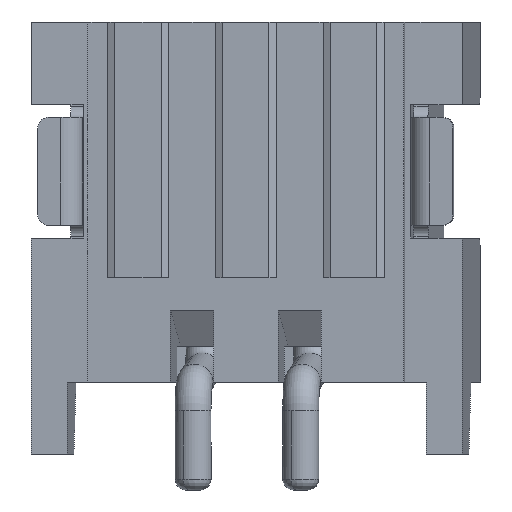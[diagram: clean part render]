
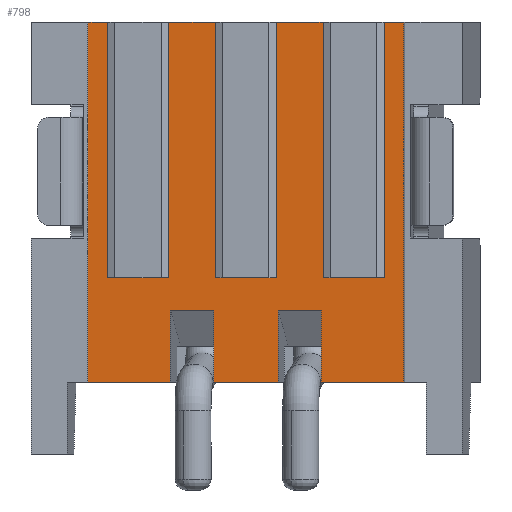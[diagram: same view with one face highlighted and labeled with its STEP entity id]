
A CAD part, front view. The second image highlights one B-rep face of the part: STEP entity #798.
In plain terms, the highlighted planar face has unit normal (-0.072, -0.997, 0) as drawn and (0, -1, 0) by its records, which use the part's own axes.
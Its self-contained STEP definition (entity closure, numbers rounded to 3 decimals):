
#577=CARTESIAN_POINT('Vertex',(1.075,0.,-3.55)) ;
#593=CARTESIAN_POINT('Vertex',(1.075,0.,0.)) ;
#596=CARTESIAN_POINT('Line Origine',(1.075,0.,-1.775)) ;
#608=CARTESIAN_POINT('Axis2P3D Location',(0.,0.,0.)) ;
#613=CARTESIAN_POINT('Line Origine',(-0.75,0.,0.)) ;
#617=CARTESIAN_POINT('Vertex',(-1.075,0.,0.)) ;
#619=CARTESIAN_POINT('Vertex',(-0.425,0.,0.)) ;
#622=CARTESIAN_POINT('Line Origine',(-1.075,0.,-1.775)) ;
#626=CARTESIAN_POINT('Vertex',(-1.075,0.,-3.55)) ;
#629=CARTESIAN_POINT('Line Origine',(-1.5,0.,-3.55)) ;
#633=CARTESIAN_POINT('Vertex',(-1.925,0.,-3.55)) ;
#636=CARTESIAN_POINT('Line Origine',(-1.925,0.,-1.775)) ;
#640=CARTESIAN_POINT('Vertex',(-1.925,0.,0.)) ;
#643=CARTESIAN_POINT('Line Origine',(-2.063,0.,0.)) ;
#647=CARTESIAN_POINT('Vertex',(-2.2,0.,0.)) ;
#650=CARTESIAN_POINT('Line Origine',(-2.2,0.,-2.5)) ;
#654=CARTESIAN_POINT('Vertex',(-2.2,0.,-5.)) ;
#657=CARTESIAN_POINT('Line Origine',(-1.625,0.,-5.)) ;
#661=CARTESIAN_POINT('Vertex',(-1.05,0.,-5.)) ;
#664=CARTESIAN_POINT('Line Origine',(-1.05,0.,-4.5)) ;
#668=CARTESIAN_POINT('Vertex',(-1.05,0.,-4.)) ;
#671=CARTESIAN_POINT('Line Origine',(-0.75,0.,-4.)) ;
#675=CARTESIAN_POINT('Vertex',(-0.45,0.,-4.)) ;
#678=CARTESIAN_POINT('Line Origine',(-0.45,0.,-4.5)) ;
#682=CARTESIAN_POINT('Vertex',(-0.45,0.,-5.)) ;
#685=CARTESIAN_POINT('Line Origine',(0.,0.,-5.)) ;
#689=CARTESIAN_POINT('Vertex',(0.45,0.,-5.)) ;
#692=CARTESIAN_POINT('Line Origine',(0.45,0.,-4.5)) ;
#696=CARTESIAN_POINT('Vertex',(0.45,0.,-4.)) ;
#699=CARTESIAN_POINT('Line Origine',(0.75,0.,-4.)) ;
#703=CARTESIAN_POINT('Vertex',(1.05,0.,-4.)) ;
#706=CARTESIAN_POINT('Line Origine',(1.05,0.,-4.5)) ;
#710=CARTESIAN_POINT('Vertex',(1.05,0.,-5.)) ;
#713=CARTESIAN_POINT('Line Origine',(1.625,0.,-5.)) ;
#717=CARTESIAN_POINT('Vertex',(2.2,0.,-5.)) ;
#720=CARTESIAN_POINT('Line Origine',(2.2,0.,-2.5)) ;
#724=CARTESIAN_POINT('Vertex',(2.2,0.,0.)) ;
#727=CARTESIAN_POINT('Line Origine',(2.063,0.,0.)) ;
#731=CARTESIAN_POINT('Vertex',(1.925,0.,0.)) ;
#734=CARTESIAN_POINT('Line Origine',(1.925,0.,-1.775)) ;
#738=CARTESIAN_POINT('Vertex',(1.925,0.,-3.55)) ;
#741=CARTESIAN_POINT('Line Origine',(1.5,0.,-3.55)) ;
#746=CARTESIAN_POINT('Line Origine',(0.75,0.,0.)) ;
#750=CARTESIAN_POINT('Vertex',(0.425,0.,0.)) ;
#753=CARTESIAN_POINT('Line Origine',(0.425,0.,-1.775)) ;
#757=CARTESIAN_POINT('Vertex',(0.425,0.,-3.55)) ;
#760=CARTESIAN_POINT('Line Origine',(0.,0.,-3.55)) ;
#764=CARTESIAN_POINT('Vertex',(-0.425,0.,-3.55)) ;
#767=CARTESIAN_POINT('Line Origine',(-0.425,0.,-1.775)) ;
#597=DIRECTION('Vector Direction',(0.,0.,-1.)) ;
#609=DIRECTION('Axis2P3D Direction',(0.,-1.,0.)) ;
#610=DIRECTION('Axis2P3D XDirection',(0.,0.,-1.)) ;
#614=DIRECTION('Vector Direction',(1.,0.,0.)) ;
#623=DIRECTION('Vector Direction',(0.,0.,-1.)) ;
#630=DIRECTION('Vector Direction',(-1.,0.,0.)) ;
#637=DIRECTION('Vector Direction',(0.,0.,-1.)) ;
#644=DIRECTION('Vector Direction',(1.,0.,0.)) ;
#651=DIRECTION('Vector Direction',(0.,0.,1.)) ;
#658=DIRECTION('Vector Direction',(1.,0.,0.)) ;
#665=DIRECTION('Vector Direction',(0.,0.,-1.)) ;
#672=DIRECTION('Vector Direction',(-1.,0.,0.)) ;
#679=DIRECTION('Vector Direction',(0.,0.,-1.)) ;
#686=DIRECTION('Vector Direction',(1.,0.,0.)) ;
#693=DIRECTION('Vector Direction',(0.,0.,-1.)) ;
#700=DIRECTION('Vector Direction',(-1.,0.,0.)) ;
#707=DIRECTION('Vector Direction',(0.,0.,-1.)) ;
#714=DIRECTION('Vector Direction',(1.,0.,0.)) ;
#721=DIRECTION('Vector Direction',(0.,0.,1.)) ;
#728=DIRECTION('Vector Direction',(1.,0.,0.)) ;
#735=DIRECTION('Vector Direction',(0.,0.,-1.)) ;
#742=DIRECTION('Vector Direction',(-1.,0.,0.)) ;
#747=DIRECTION('Vector Direction',(1.,0.,0.)) ;
#754=DIRECTION('Vector Direction',(0.,0.,-1.)) ;
#761=DIRECTION('Vector Direction',(-1.,0.,0.)) ;
#768=DIRECTION('Vector Direction',(0.,0.,-1.)) ;
#611=AXIS2_PLACEMENT_3D('Plane Axis2P3D',#608,#609,#610) ;
#773=ORIENTED_EDGE('',*,*,#621,.F.) ;
#774=ORIENTED_EDGE('',*,*,#628,.T.) ;
#775=ORIENTED_EDGE('',*,*,#635,.T.) ;
#776=ORIENTED_EDGE('',*,*,#642,.F.) ;
#777=ORIENTED_EDGE('',*,*,#649,.F.) ;
#778=ORIENTED_EDGE('',*,*,#656,.F.) ;
#779=ORIENTED_EDGE('',*,*,#663,.F.) ;
#780=ORIENTED_EDGE('',*,*,#670,.F.) ;
#781=ORIENTED_EDGE('',*,*,#677,.F.) ;
#782=ORIENTED_EDGE('',*,*,#684,.T.) ;
#783=ORIENTED_EDGE('',*,*,#691,.F.) ;
#784=ORIENTED_EDGE('',*,*,#698,.F.) ;
#785=ORIENTED_EDGE('',*,*,#705,.F.) ;
#786=ORIENTED_EDGE('',*,*,#712,.T.) ;
#787=ORIENTED_EDGE('',*,*,#719,.F.) ;
#788=ORIENTED_EDGE('',*,*,#726,.F.) ;
#789=ORIENTED_EDGE('',*,*,#733,.F.) ;
#790=ORIENTED_EDGE('',*,*,#740,.T.) ;
#791=ORIENTED_EDGE('',*,*,#745,.T.) ;
#792=ORIENTED_EDGE('',*,*,#600,.F.) ;
#793=ORIENTED_EDGE('',*,*,#752,.F.) ;
#794=ORIENTED_EDGE('',*,*,#759,.T.) ;
#795=ORIENTED_EDGE('',*,*,#766,.T.) ;
#796=ORIENTED_EDGE('',*,*,#771,.F.) ;
#598=VECTOR('Line Direction',#597,1.) ;
#615=VECTOR('Line Direction',#614,1.) ;
#624=VECTOR('Line Direction',#623,1.) ;
#631=VECTOR('Line Direction',#630,1.) ;
#638=VECTOR('Line Direction',#637,1.) ;
#645=VECTOR('Line Direction',#644,1.) ;
#652=VECTOR('Line Direction',#651,1.) ;
#659=VECTOR('Line Direction',#658,1.) ;
#666=VECTOR('Line Direction',#665,1.) ;
#673=VECTOR('Line Direction',#672,1.) ;
#680=VECTOR('Line Direction',#679,1.) ;
#687=VECTOR('Line Direction',#686,1.) ;
#694=VECTOR('Line Direction',#693,1.) ;
#701=VECTOR('Line Direction',#700,1.) ;
#708=VECTOR('Line Direction',#707,1.) ;
#715=VECTOR('Line Direction',#714,1.) ;
#722=VECTOR('Line Direction',#721,1.) ;
#729=VECTOR('Line Direction',#728,1.) ;
#736=VECTOR('Line Direction',#735,1.) ;
#743=VECTOR('Line Direction',#742,1.) ;
#748=VECTOR('Line Direction',#747,1.) ;
#755=VECTOR('Line Direction',#754,1.) ;
#762=VECTOR('Line Direction',#761,1.) ;
#769=VECTOR('Line Direction',#768,1.) ;
#798=ADVANCED_FACE('\X2\96F64EF651E04F554F53\X0\',(#797),#612,.T.) ;
#600=EDGE_CURVE('',#594,#578,#599,.T.) ;
#621=EDGE_CURVE('',#618,#620,#616,.T.) ;
#628=EDGE_CURVE('',#618,#627,#625,.T.) ;
#635=EDGE_CURVE('',#627,#634,#632,.T.) ;
#642=EDGE_CURVE('',#641,#634,#639,.T.) ;
#649=EDGE_CURVE('',#648,#641,#646,.T.) ;
#656=EDGE_CURVE('',#655,#648,#653,.T.) ;
#663=EDGE_CURVE('',#662,#655,#660,.F.) ;
#670=EDGE_CURVE('',#669,#662,#667,.T.) ;
#677=EDGE_CURVE('',#676,#669,#674,.T.) ;
#684=EDGE_CURVE('',#676,#683,#681,.T.) ;
#691=EDGE_CURVE('',#690,#683,#688,.F.) ;
#698=EDGE_CURVE('',#697,#690,#695,.T.) ;
#705=EDGE_CURVE('',#704,#697,#702,.T.) ;
#712=EDGE_CURVE('',#704,#711,#709,.T.) ;
#719=EDGE_CURVE('',#718,#711,#716,.F.) ;
#726=EDGE_CURVE('',#725,#718,#723,.F.) ;
#733=EDGE_CURVE('',#732,#725,#730,.T.) ;
#740=EDGE_CURVE('',#732,#739,#737,.T.) ;
#745=EDGE_CURVE('',#739,#578,#744,.T.) ;
#752=EDGE_CURVE('',#751,#594,#749,.T.) ;
#759=EDGE_CURVE('',#751,#758,#756,.T.) ;
#766=EDGE_CURVE('',#758,#765,#763,.T.) ;
#771=EDGE_CURVE('',#620,#765,#770,.T.) ;
#772=EDGE_LOOP('',(#773,#774,#775,#776,#777,#778,#779,#780,#781,#782,#783,#784,#785,#786,#787,#788,#789,#790,#791,#792,#793,#794,#795,#796)) ;
#797=FACE_OUTER_BOUND('',#772,.T.) ;
#599=LINE('Line',#596,#598) ;
#616=LINE('Line',#613,#615) ;
#625=LINE('Line',#622,#624) ;
#632=LINE('Line',#629,#631) ;
#639=LINE('Line',#636,#638) ;
#646=LINE('Line',#643,#645) ;
#653=LINE('Line',#650,#652) ;
#660=LINE('Line',#657,#659) ;
#667=LINE('Line',#664,#666) ;
#674=LINE('Line',#671,#673) ;
#681=LINE('Line',#678,#680) ;
#688=LINE('Line',#685,#687) ;
#695=LINE('Line',#692,#694) ;
#702=LINE('Line',#699,#701) ;
#709=LINE('Line',#706,#708) ;
#716=LINE('Line',#713,#715) ;
#723=LINE('Line',#720,#722) ;
#730=LINE('Line',#727,#729) ;
#737=LINE('Line',#734,#736) ;
#744=LINE('Line',#741,#743) ;
#749=LINE('Line',#746,#748) ;
#756=LINE('Line',#753,#755) ;
#763=LINE('Line',#760,#762) ;
#770=LINE('Line',#767,#769) ;
#612=PLANE('Plane',#611) ;
#578=VERTEX_POINT('',#577) ;
#594=VERTEX_POINT('',#593) ;
#618=VERTEX_POINT('',#617) ;
#620=VERTEX_POINT('',#619) ;
#627=VERTEX_POINT('',#626) ;
#634=VERTEX_POINT('',#633) ;
#641=VERTEX_POINT('',#640) ;
#648=VERTEX_POINT('',#647) ;
#655=VERTEX_POINT('',#654) ;
#662=VERTEX_POINT('',#661) ;
#669=VERTEX_POINT('',#668) ;
#676=VERTEX_POINT('',#675) ;
#683=VERTEX_POINT('',#682) ;
#690=VERTEX_POINT('',#689) ;
#697=VERTEX_POINT('',#696) ;
#704=VERTEX_POINT('',#703) ;
#711=VERTEX_POINT('',#710) ;
#718=VERTEX_POINT('',#717) ;
#725=VERTEX_POINT('',#724) ;
#732=VERTEX_POINT('',#731) ;
#739=VERTEX_POINT('',#738) ;
#751=VERTEX_POINT('',#750) ;
#758=VERTEX_POINT('',#757) ;
#765=VERTEX_POINT('',#764) ;
